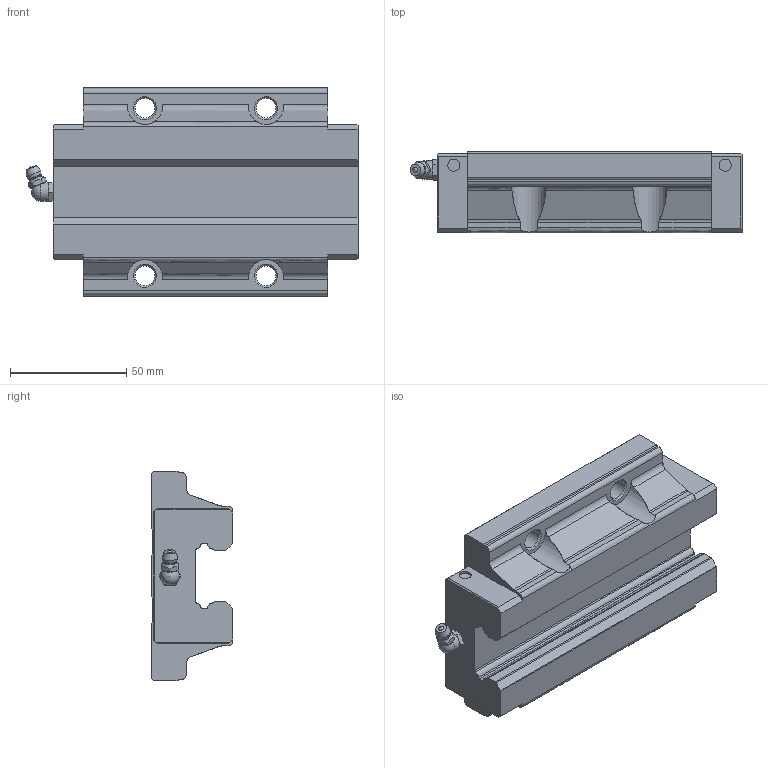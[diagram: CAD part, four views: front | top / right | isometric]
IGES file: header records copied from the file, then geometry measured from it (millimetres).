
Start section: Data from Parasolid IGES Translator 26.0.171, Copyright(c) 2006 Siemens PLM Software. All Rights Reserved.
Global section: file name: SHS30LC1SS(GK) BLOCK(B-M6F1).igs; native system: By Siemens PLM Incorporated; preprocessor: XPlus GENERIC/IGES 26.0.171; author: Noname; organization: Noname; date: 20240514.043619; units: millimetre
Bounding box: 142.6 x 35 x 90 mm (x, y, z)
Surface area: 40710.5 mm2 (no closed solid volume)
Topology: 0 solids, 0 shells, 182 faces, 1026 edges, 1009 vertices
Faces by surface type: extrusion 98, revolution 84
